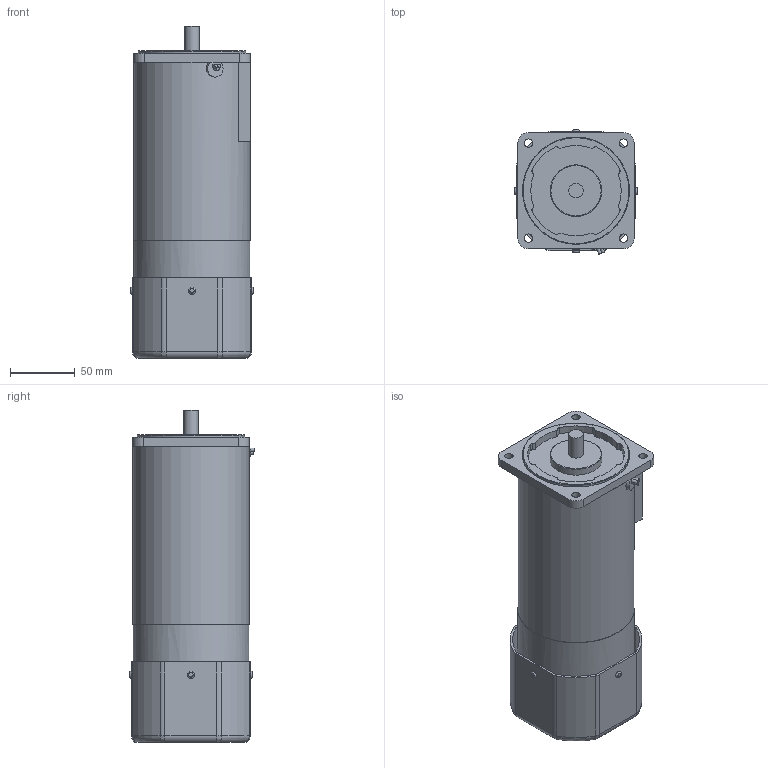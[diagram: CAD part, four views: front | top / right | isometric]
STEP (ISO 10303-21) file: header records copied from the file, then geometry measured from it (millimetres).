
FILE_DESCRIPTION((''),'2;1');
FILE_NAME('E:\2공장-도면\3D\표준형 3D(민규)\step file\D\K9RP180Fㅁ-D.stp','2014-11-17T11:07:49',('AHN'),(''),'Autodesk Inventor 2012','Autodesk Inventor 2012','');
FILE_SCHEMA(('CONFIG_CONTROL_DESIGN'));
Length unit declared in the file: millimetre
Products named in the file (1): K9RP180Fㅁ-D
Bounding box: 95 x 96.71 x 257 mm (x, y, z)
Volume: 1455289.2 mm3; surface area: 127063.1 mm2
Topology: 1 solids, 1 shells, 237 faces, 592 edges, 364 vertices
Faces by surface type: cylinder 121, plane 70, torus 38, bspline 8
Full cylindrical faces by diameter (mm): 6.5 x4, 8 x4, 11.3 x1, 40 x1, 83 x1, 89.8 x1, 90 x2
Entity records: 7658 total; most frequent: CARTESIAN_POINT 1980, DIRECTION 1223, ORIENTED_EDGE 1128, EDGE_CURVE 564, AXIS2_PLACEMENT_3D 486, VERTEX_POINT 356, EDGE_LOOP 305, CIRCLE 256
